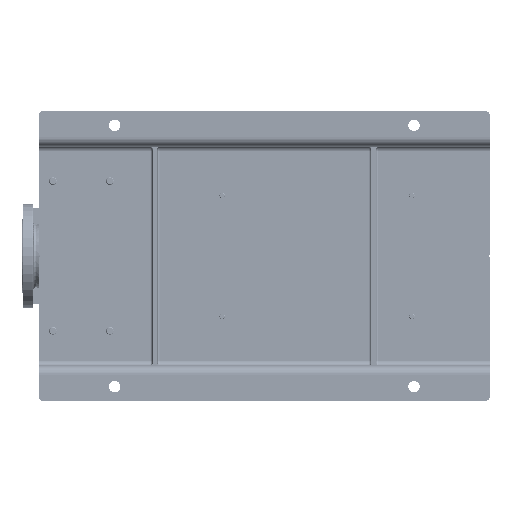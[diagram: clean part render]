
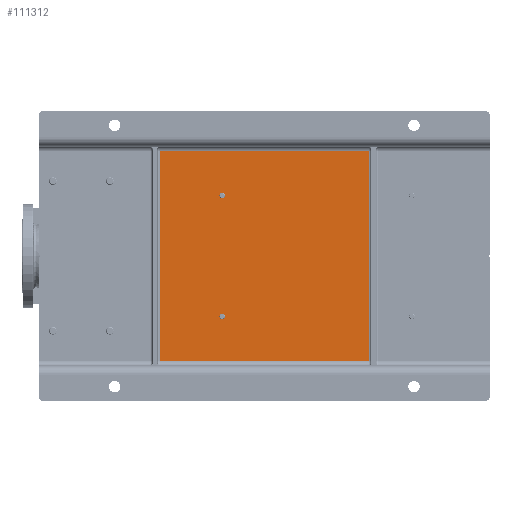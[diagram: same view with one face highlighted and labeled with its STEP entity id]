
A CAD part, front view. The second image highlights one B-rep face of the part: STEP entity #111312.
In plain terms, the highlighted planar face has unit normal (0, -1, 0).
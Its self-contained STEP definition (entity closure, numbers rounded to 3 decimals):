
#761 = DIRECTION ( 'NONE',  ( 0., 1., 0. ) ) ;
#7843 = VERTEX_POINT ( 'NONE', #237964 ) ;
#8454 = AXIS2_PLACEMENT_3D ( 'NONE', #238461, #108987, #68003 ) ;
#22382 = CARTESIAN_POINT ( 'NONE',  ( 525., 65., -695. ) ) ;
#30665 = FACE_BOUND ( 'NONE', #62341, .T. ) ;
#31192 = VERTEX_POINT ( 'NONE', #61433 ) ;
#32000 = DIRECTION ( 'NONE',  ( -1., 0., 0. ) ) ;
#32246 = DIRECTION ( 'NONE',  ( 0., 0., -1. ) ) ;
#33210 = EDGE_CURVE ( 'NONE', #126974, #49556, #97724, .T. ) ;
#34222 = LINE ( 'NONE', #166118, #161703 ) ;
#35603 = CARTESIAN_POINT ( 'NONE',  ( 432., 65., -386.5 ) ) ;
#40497 = CIRCLE ( 'NONE', #143898, 6. ) ;
#41421 = ORIENTED_EDGE ( 'NONE', *, *, #93801, .T. ) ;
#46095 = CARTESIAN_POINT ( 'NONE',  ( 178., 65., -392.5 ) ) ;
#49086 = DIRECTION ( 'NONE',  ( 0., 1., 0. ) ) ;
#49432 = LINE ( 'NONE', #70541, #72329 ) ;
#49556 = VERTEX_POINT ( 'NONE', #230583 ) ;
#50313 = CARTESIAN_POINT ( 'NONE',  ( 178., 65., -386.5 ) ) ;
#50940 = DIRECTION ( 'NONE',  ( 0., 1., 0. ) ) ;
#61379 = CIRCLE ( 'NONE', #124920, 6. ) ;
#61433 = CARTESIAN_POINT ( 'NONE',  ( 85., 65., -695. ) ) ;
#62341 = EDGE_LOOP ( 'NONE', ( #41421, #97170 ) ) ;
#63009 = CARTESIAN_POINT ( 'NONE',  ( 85., 65., -255. ) ) ;
#68003 = DIRECTION ( 'NONE',  ( 0., 0., -1. ) ) ;
#70541 = CARTESIAN_POINT ( 'NONE',  ( 75., 65., -255. ) ) ;
#71851 = EDGE_LOOP ( 'NONE', ( #225173, #230650, #149580, #190892 ) ) ;
#72329 = VECTOR ( 'NONE', #32000, 1000. ) ;
#74974 = DIRECTION ( 'NONE',  ( 0., 0., -1. ) ) ;
#77665 = VERTEX_POINT ( 'NONE', #225115 ) ;
#93801 = EDGE_CURVE ( 'NONE', #77665, #164589, #40497, .T. ) ;
#97170 = ORIENTED_EDGE ( 'NONE', *, *, #174639, .T. ) ;
#97724 = CIRCLE ( 'NONE', #153480, 6. ) ;
#101789 = DIRECTION ( 'NONE',  ( 0., 0., 1. ) ) ;
#108987 = DIRECTION ( 'NONE',  ( 0., -1., 0. ) ) ;
#110798 = EDGE_CURVE ( 'NONE', #31192, #242725, #210557, .T. ) ;
#111312 = ADVANCED_FACE ( 'NONE', ( #201115, #30665, #239668 ), #146345, .T. ) ;
#124920 = AXIS2_PLACEMENT_3D ( 'NONE', #236696, #50940, #32246 ) ;
#126974 = VERTEX_POINT ( 'NONE', #176485 ) ;
#131234 = AXIS2_PLACEMENT_3D ( 'NONE', #140368, #216240, #101789 ) ;
#137164 = EDGE_CURVE ( 'NONE', #159029, #31192, #168291, .T. ) ;
#140368 = CARTESIAN_POINT ( 'NONE',  ( 432., 65., -386.5 ) ) ;
#141683 = VECTOR ( 'NONE', #74974, 1000. ) ;
#143898 = AXIS2_PLACEMENT_3D ( 'NONE', #50313, #49086, #235760 ) ;
#146345 = PLANE ( 'NONE',  #8454 ) ;
#149580 = ORIENTED_EDGE ( 'NONE', *, *, #178711, .T. ) ;
#153480 = AXIS2_PLACEMENT_3D ( 'NONE', #35603, #761, #153699 ) ;
#153699 = DIRECTION ( 'NONE',  ( 0., 0., 1. ) ) ;
#154057 = ORIENTED_EDGE ( 'NONE', *, *, #165059, .T. ) ;
#159029 = VERTEX_POINT ( 'NONE', #63009 ) ;
#161703 = VECTOR ( 'NONE', #207129, 1000. ) ;
#164589 = VERTEX_POINT ( 'NONE', #46095 ) ;
#165059 = EDGE_CURVE ( 'NONE', #49556, #126974, #175439, .T. ) ;
#166118 = CARTESIAN_POINT ( 'NONE',  ( 525., 65., -250. ) ) ;
#168291 = LINE ( 'NONE', #206879, #141683 ) ;
#174639 = EDGE_CURVE ( 'NONE', #164589, #77665, #61379, .T. ) ;
#175439 = CIRCLE ( 'NONE', #131234, 6. ) ;
#176485 = CARTESIAN_POINT ( 'NONE',  ( 432., 65., -380.5 ) ) ;
#176886 = CARTESIAN_POINT ( 'NONE',  ( 75., 65., -695. ) ) ;
#178711 = EDGE_CURVE ( 'NONE', #242725, #7843, #34222, .T. ) ;
#190892 = ORIENTED_EDGE ( 'NONE', *, *, #211362, .T. ) ;
#191105 = ORIENTED_EDGE ( 'NONE', *, *, #33210, .T. ) ;
#194342 = DIRECTION ( 'NONE',  ( 1., 0., 0. ) ) ;
#201115 = FACE_BOUND ( 'NONE', #211414, .T. ) ;
#203601 = VECTOR ( 'NONE', #194342, 1000. ) ;
#206879 = CARTESIAN_POINT ( 'NONE',  ( 85., 65., -700. ) ) ;
#207129 = DIRECTION ( 'NONE',  ( 0., 0., 1. ) ) ;
#210557 = LINE ( 'NONE', #176886, #203601 ) ;
#211362 = EDGE_CURVE ( 'NONE', #7843, #159029, #49432, .T. ) ;
#211414 = EDGE_LOOP ( 'NONE', ( #191105, #154057 ) ) ;
#216240 = DIRECTION ( 'NONE',  ( 0., 1., 0. ) ) ;
#225115 = CARTESIAN_POINT ( 'NONE',  ( 178., 65., -380.5 ) ) ;
#225173 = ORIENTED_EDGE ( 'NONE', *, *, #137164, .T. ) ;
#230583 = CARTESIAN_POINT ( 'NONE',  ( 432., 65., -392.5 ) ) ;
#230650 = ORIENTED_EDGE ( 'NONE', *, *, #110798, .T. ) ;
#235760 = DIRECTION ( 'NONE',  ( 0., 0., -1. ) ) ;
#236696 = CARTESIAN_POINT ( 'NONE',  ( 178., 65., -386.5 ) ) ;
#237964 = CARTESIAN_POINT ( 'NONE',  ( 525., 65., -255. ) ) ;
#238461 = CARTESIAN_POINT ( 'NONE',  ( 75., 65., -950. ) ) ;
#239668 = FACE_OUTER_BOUND ( 'NONE', #71851, .T. ) ;
#242725 = VERTEX_POINT ( 'NONE', #22382 ) ;
